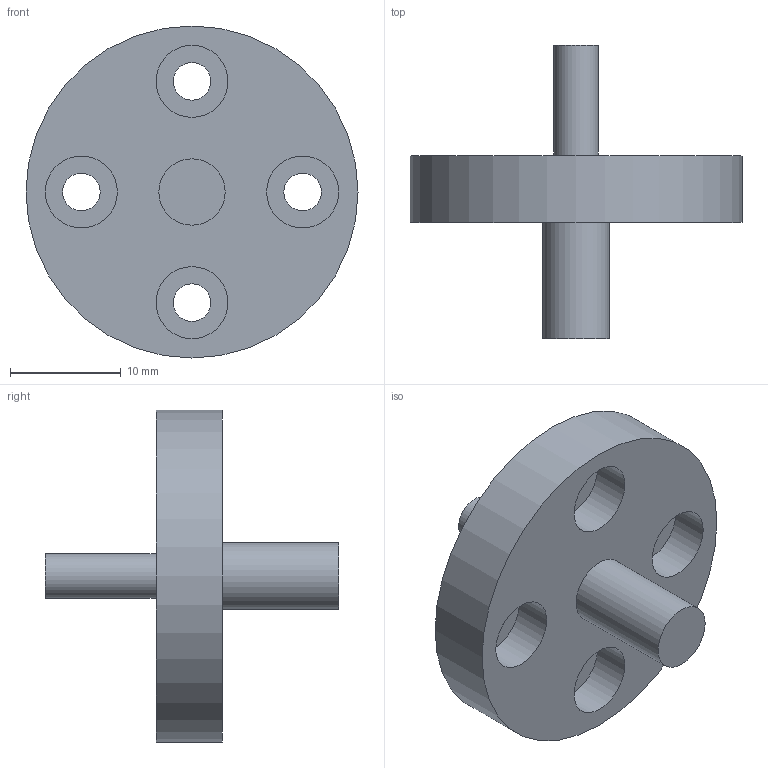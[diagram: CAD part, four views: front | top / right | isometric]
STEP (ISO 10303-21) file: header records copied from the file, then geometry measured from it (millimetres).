
FILE_DESCRIPTION(/* description */ (''),/* implementation_level */ '2;1');
FILE_NAME(/* name */ 'CWC-SE0013-P04_Torque Sensor Axle TD50.stp',/* time_stamp */ '2026-04-28T16:21:17+02:00',/* author */ (''),/* organization */ (''),/* preprocessor_version */ 'ST-DEVELOPER v18.1',/* originating_system */ 'SIEMENS PLM Software NX 1988',/* authorisation */ '');
FILE_SCHEMA (('AUTOMOTIVE_DESIGN { 1 0 10303 214 3 1 1 1 }'));
Length unit declared in the file: millimetre
Products named in the file (1): anto6558201A7f0t
Bounding box: 30 x 26.5 x 30 mm (x, y, z)
Volume: 4108.3 mm3; surface area: 2622.9 mm2
Topology: 1 solids, 1 shells, 19 faces, 34 edges, 23 vertices
Faces by surface type: cylinder 11, plane 8
Full cylindrical faces by diameter (mm): 3.4 x4, 4 x1, 6 x1, 6.5 x4, 30 x1
Entity records: 462 total; most frequent: DIRECTION 84, CARTESIAN_POINT 64, EDGE_LOOP 44, ORIENTED_EDGE 44, FACE_BOUND 42, AXIS2_PLACEMENT_3D 42, VERTEX_POINT 22, EDGE_CURVE 22
